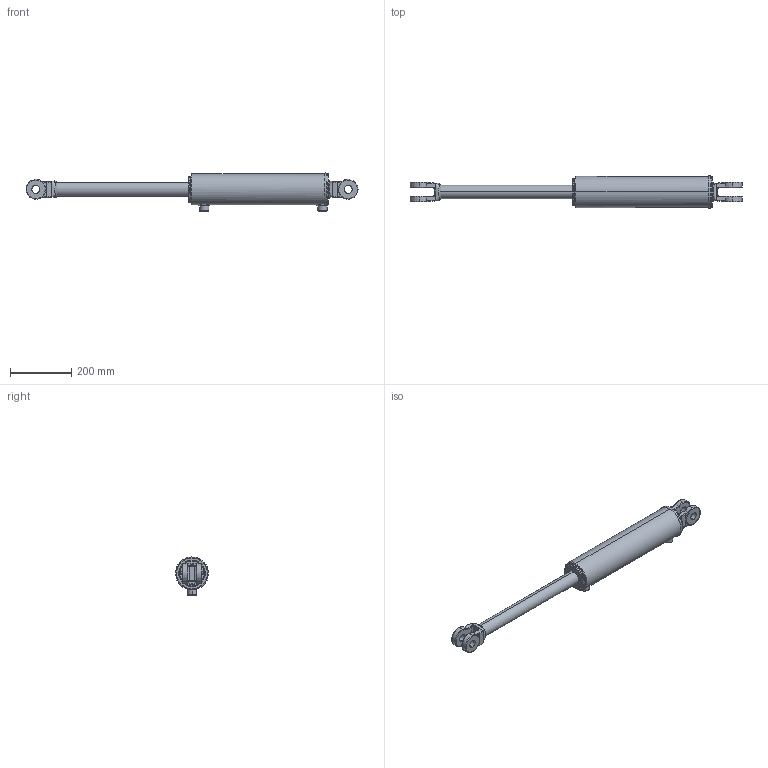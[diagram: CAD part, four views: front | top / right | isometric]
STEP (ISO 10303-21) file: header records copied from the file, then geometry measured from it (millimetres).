
FILE_DESCRIPTION (( 'STEP AP203' ), '1' );
FILE_NAME ('CL-CL350175x355 (14) extended.STEP', '2014-11-22T16:35:18', ( '' ), ( '' ), 'SwSTEP 2.0', 'SolidWorks 2014', '' );
FILE_SCHEMA (( 'CONFIG_CONTROL_DESIGN' ));
Length unit declared in the file: millimetre
Products named in the file (4): CL-CL300150x  body_3.5x14; 3 in ext circlip; SPARE 6_14x1.75; CL-CL350175x355 (14) extended
Assembly tree (3 placements, depth 2):
  CL-CL350175x355 (14) extended
    CL-CL300150x  body_3.5x14
    3 in ext circlip
    SPARE 6_14x1.75
Bounding box: 1084.39 x 107.33 x 124.5 mm (x, y, z)
Volume: 4160754.7 mm3; surface area: 350980.9 mm2
Topology: 3 solids, 3 shells, 211 faces, 518 edges, 319 vertices
Faces by surface type: cylinder 91, bspline 59, plane 38, torus 15, cone 8
Entity records: 11321 total; most frequent: CARTESIAN_POINT 6234, ORIENTED_EDGE 1028, DIRECTION 941, EDGE_CURVE 514, AXIS2_PLACEMENT_3D 393, VERTEX_POINT 319, CIRCLE 235, EDGE_LOOP 233
